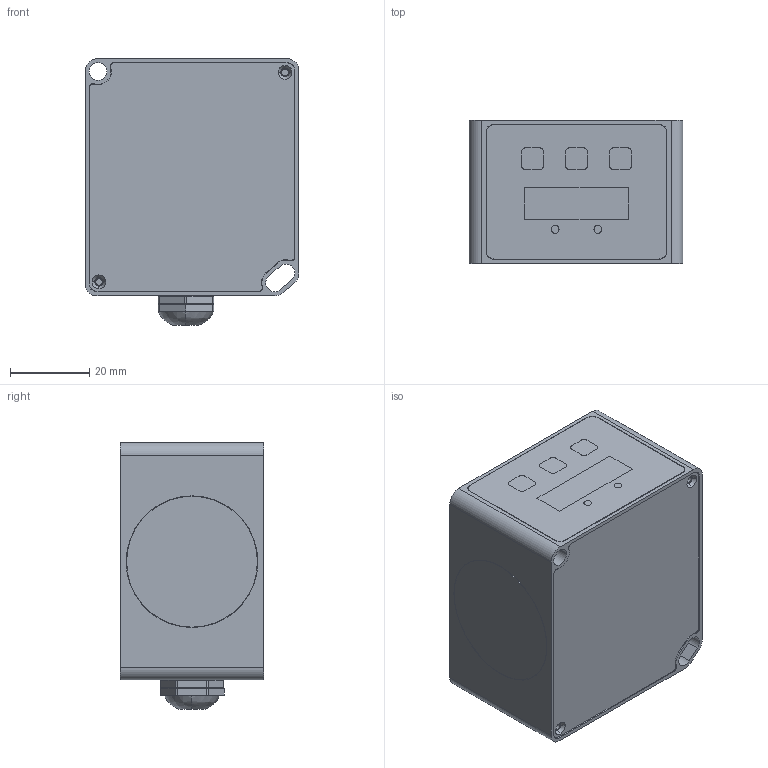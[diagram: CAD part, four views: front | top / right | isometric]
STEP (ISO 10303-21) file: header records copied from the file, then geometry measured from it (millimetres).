
FILE_DESCRIPTION(/* description */ (''),/* implementation_level */ '2;1');
FILE_NAME(/* name */ 'SDA',/* time_stamp */ '2025-11-13T14:42:31+08:00',/* author */ (''),/* organization */ (''),/* preprocessor_version */ 'ST-DEVELOPER v19.2',/* originating_system */ 'Rhino 8.5',/* authorisation */ '');
FILE_SCHEMA (('CONFIG_CONTROL_DESIGN'));
Length unit declared in the file: millimetre
Products named in the file (2): Document; M12防水接头
Bounding box: 53.9 x 36.1 x 67.28 mm (x, y, z)
Volume: 26047.7 mm3; surface area: 35223.1 mm2
Topology: 12 solids, 12 shells, 362 faces, 970 edges, 639 vertices
Faces by surface type: plane 173, cylinder 169, bspline 20
Entity records: 12309 total; most frequent: CARTESIAN_POINT 4284, ORIENTED_EDGE 1940, EDGE_CURVE 970, DIRECTION 964, AXIS2_PLACEMENT_3D 653, VERTEX_POINT 639, B_SPLINE_CURVE_WITH_KNOTS 525, EDGE_LOOP 411
